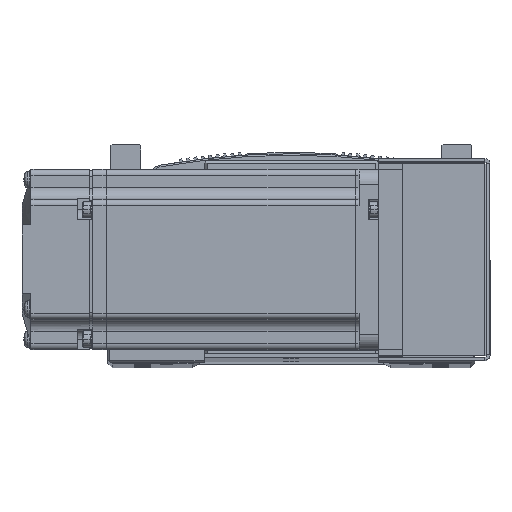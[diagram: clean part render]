
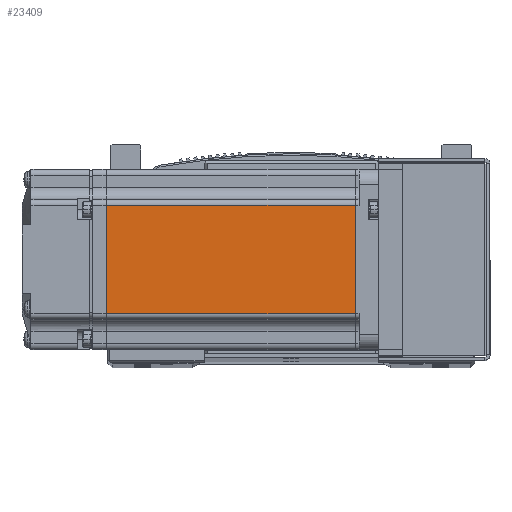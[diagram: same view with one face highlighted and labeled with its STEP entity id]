
A CAD part, top view. The second image highlights one B-rep face of the part: STEP entity #23409.
In plain terms, the highlighted planar face has unit normal (0, 0, 1) as drawn and (0, 1, 0) by its records, which use the part's own axes.
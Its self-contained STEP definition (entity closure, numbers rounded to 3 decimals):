
#16378 = LINE ( 'NONE', #37489, #16861 ) ;
#16861 = VECTOR ( 'NONE', #37500, 1000. ) ;
#17468 = LINE ( 'NONE', #37256, #17484 ) ;
#17484 = VECTOR ( 'NONE', #37268, 1000. ) ;
#17614 = VECTOR ( 'NONE', #37368, 1000. ) ;
#17624 = VECTOR ( 'NONE', #37364, 1000. ) ;
#17635 = LINE ( 'NONE', #37371, #17624 ) ;
#17680 = LINE ( 'NONE', #37398, #17614 ) ;
#23409 = ADVANCED_FACE ( 'NONE', ( #32666 ), #74575, .T. ) ;
#32536 = AXIS2_PLACEMENT_3D ( 'NONE', #74577, #74633, #74571 ) ;
#32666 = FACE_OUTER_BOUND ( 'NONE', #45046, .T. ) ;
#37256 = CARTESIAN_POINT ( 'NONE',  ( -6.5, 30., 18. ) ) ;
#37268 = DIRECTION ( 'NONE',  ( 1., 0., 0. ) ) ;
#37364 = DIRECTION ( 'NONE',  ( -1., 0., 0. ) ) ;
#37368 = DIRECTION ( 'NONE',  ( 0., 0., 1. ) ) ;
#37371 = CARTESIAN_POINT ( 'NONE',  ( -6.5, 30., -18. ) ) ;
#37398 = CARTESIAN_POINT ( 'NONE',  ( -90.45, 30., 0. ) ) ;
#37489 = CARTESIAN_POINT ( 'NONE',  ( -7.75, 30., 0. ) ) ;
#37500 = DIRECTION ( 'NONE',  ( 0., 0., 1. ) ) ;
#45046 = EDGE_LOOP ( 'NONE', ( #51421, #51481, #51543, #51451 ) ) ;
#51421 = ORIENTED_EDGE ( 'NONE', *, *, #57855, .F. ) ;
#51451 = ORIENTED_EDGE ( 'NONE', *, *, #57579, .T. ) ;
#51481 = ORIENTED_EDGE ( 'NONE', *, *, #57682, .T. ) ;
#51543 = ORIENTED_EDGE ( 'NONE', *, *, #57719, .T. ) ;
#51858 = VERTEX_POINT ( 'NONE', #61187 ) ;
#51866 = VERTEX_POINT ( 'NONE', #61159 ) ;
#51890 = VERTEX_POINT ( 'NONE', #61172 ) ;
#51977 = VERTEX_POINT ( 'NONE', #61226 ) ;
#57579 = EDGE_CURVE ( 'NONE', #51977, #51866, #17468, .T. ) ;
#57682 = EDGE_CURVE ( 'NONE', #51890, #51858, #17635, .T. ) ;
#57719 = EDGE_CURVE ( 'NONE', #51858, #51977, #17680, .T. ) ;
#57855 = EDGE_CURVE ( 'NONE', #51890, #51866, #16378, .T. ) ;
#61159 = CARTESIAN_POINT ( 'NONE',  ( -7.75, 30., 18. ) ) ;
#61172 = CARTESIAN_POINT ( 'NONE',  ( -7.75, 30., -18. ) ) ;
#61187 = CARTESIAN_POINT ( 'NONE',  ( -90.45, 30., -18. ) ) ;
#61226 = CARTESIAN_POINT ( 'NONE',  ( -90.45, 30., 18. ) ) ;
#74571 = DIRECTION ( 'NONE',  ( 0., 0., 1. ) ) ;
#74575 = PLANE ( 'NONE',  #32536 ) ;
#74577 = CARTESIAN_POINT ( 'NONE',  ( -6.5, 30., 25. ) ) ;
#74633 = DIRECTION ( 'NONE',  ( 0., 1., 0. ) ) ;
